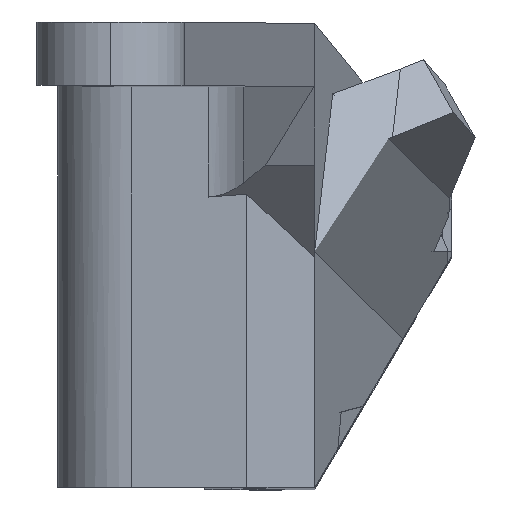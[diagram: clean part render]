
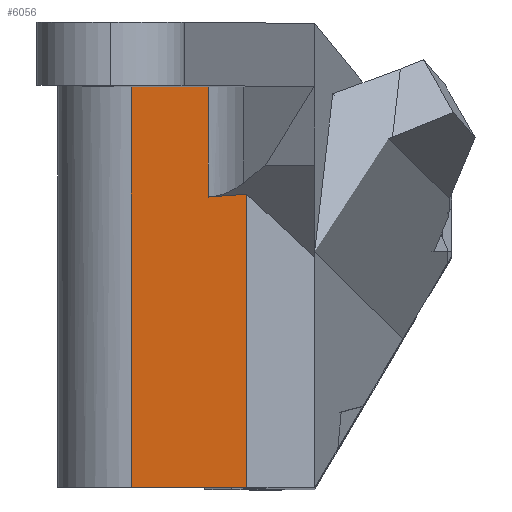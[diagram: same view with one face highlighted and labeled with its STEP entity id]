
A CAD part, top view. The second image highlights one B-rep face of the part: STEP entity #6056.
In plain terms, the highlighted planar face has unit normal (-0.074, 0, 0.997).
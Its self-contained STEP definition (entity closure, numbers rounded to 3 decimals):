
#7 = EDGE_CURVE ( 'NONE', #6515, #7220, #4632, .T. ) ;
#127 = DIRECTION ( 'NONE',  ( 0., 1., 0. ) ) ;
#315 = CARTESIAN_POINT ( 'NONE',  ( -5.05, 19., 57.701 ) ) ;
#321 = ORIENTED_EDGE ( 'NONE', *, *, #1296, .T. ) ;
#407 = ORIENTED_EDGE ( 'NONE', *, *, #7636, .F. ) ;
#422 = LINE ( 'NONE', #8085, #2628 ) ;
#741 = CARTESIAN_POINT ( 'NONE',  ( -8.69, 0., 57.429 ) ) ;
#1016 = CARTESIAN_POINT ( 'NONE',  ( -3.224, 13.909, 57.838 ) ) ;
#1052 = DIRECTION ( 'NONE',  ( 0., 1., 0. ) ) ;
#1296 = EDGE_CURVE ( 'NONE', #1637, #7726, #422, .T. ) ;
#1565 = LINE ( 'NONE', #8368, #8758 ) ;
#1637 = VERTEX_POINT ( 'NONE', #6147 ) ;
#1709 = FACE_OUTER_BOUND ( 'NONE', #8177, .T. ) ;
#1780 = EDGE_CURVE ( 'NONE', #2706, #6083, #1565, .T. ) ;
#1908 = EDGE_CURVE ( 'NONE', #7726, #6515, #5508, .T. ) ;
#1932 = ORIENTED_EDGE ( 'NONE', *, *, #1780, .T. ) ;
#2297 = DIRECTION ( 'NONE',  ( -0.075, 0., 0.997 ) ) ;
#2377 = VECTOR ( 'NONE', #1052, 1000. ) ;
#2617 = CARTESIAN_POINT ( 'NONE',  ( -5.05, 13.772, 57.701 ) ) ;
#2628 = VECTOR ( 'NONE', #3298, 1000. ) ;
#2706 = VERTEX_POINT ( 'NONE', #315 ) ;
#3298 = DIRECTION ( 'NONE',  ( 0.997, 0., 0.075 ) ) ;
#3386 = EDGE_CURVE ( 'NONE', #7220, #2706, #5770, .T. ) ;
#3551 = DIRECTION ( 'NONE',  ( 0., 1., 0. ) ) ;
#4375 = AXIS2_PLACEMENT_3D ( 'NONE', #4443, #2297, #3551 ) ;
#4443 = CARTESIAN_POINT ( 'NONE',  ( -2., 0., 57.929 ) ) ;
#4632 = LINE ( 'NONE', #7364, #7132 ) ;
#4845 = CARTESIAN_POINT ( 'NONE',  ( -3.224, 14., 57.838 ) ) ;
#4926 = DIRECTION ( 'NONE',  ( -0.997, 0., -0.075 ) ) ;
#5508 = LINE ( 'NONE', #4845, #5816 ) ;
#5592 = DIRECTION ( 'NONE',  ( 0., 1., 0. ) ) ;
#5770 = LINE ( 'NONE', #8493, #2377 ) ;
#5816 = VECTOR ( 'NONE', #127, 1000. ) ;
#6056 = ADVANCED_FACE ( 'NONE', ( #1709 ), #8429, .T. ) ;
#6083 = VERTEX_POINT ( 'NONE', #8647 ) ;
#6122 = VECTOR ( 'NONE', #5592, 1000. ) ;
#6147 = CARTESIAN_POINT ( 'NONE',  ( -8.69, 0., 57.429 ) ) ;
#6175 = LINE ( 'NONE', #741, #6122 ) ;
#6443 = ORIENTED_EDGE ( 'NONE', *, *, #1908, .T. ) ;
#6515 = VERTEX_POINT ( 'NONE', #1016 ) ;
#6929 = CARTESIAN_POINT ( 'NONE',  ( -3.224, 0., 57.838 ) ) ;
#7132 = VECTOR ( 'NONE', #8752, 1000. ) ;
#7220 = VERTEX_POINT ( 'NONE', #2617 ) ;
#7364 = CARTESIAN_POINT ( 'NONE',  ( -3.035, 13.923, 57.852 ) ) ;
#7636 = EDGE_CURVE ( 'NONE', #1637, #6083, #6175, .T. ) ;
#7726 = VERTEX_POINT ( 'NONE', #6929 ) ;
#8066 = ORIENTED_EDGE ( 'NONE', *, *, #7, .T. ) ;
#8085 = CARTESIAN_POINT ( 'NONE',  ( -2., 0., 57.929 ) ) ;
#8177 = EDGE_LOOP ( 'NONE', ( #8755, #1932, #407, #321, #6443, #8066 ) ) ;
#8368 = CARTESIAN_POINT ( 'NONE',  ( -2., 19., 57.929 ) ) ;
#8429 = PLANE ( 'NONE',  #4375 ) ;
#8493 = CARTESIAN_POINT ( 'NONE',  ( -5.05, 0., 57.701 ) ) ;
#8647 = CARTESIAN_POINT ( 'NONE',  ( -8.69, 19., 57.429 ) ) ;
#8752 = DIRECTION ( 'NONE',  ( -0.994, -0.074, -0.074 ) ) ;
#8755 = ORIENTED_EDGE ( 'NONE', *, *, #3386, .T. ) ;
#8758 = VECTOR ( 'NONE', #4926, 1000. ) ;
